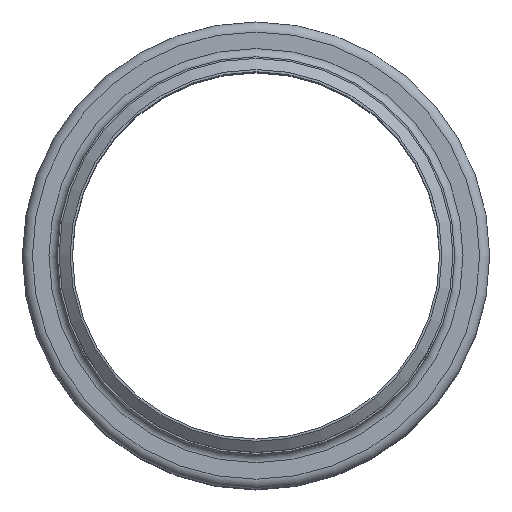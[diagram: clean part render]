
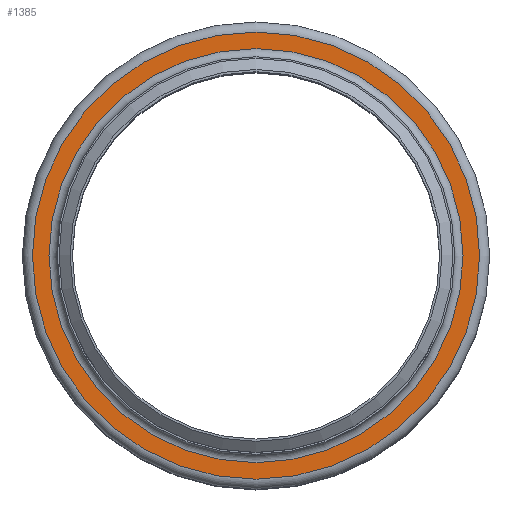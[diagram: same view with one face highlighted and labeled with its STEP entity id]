
A CAD part, top view. The second image highlights one B-rep face of the part: STEP entity #1385.
In plain terms, the highlighted planar face has unit normal (0, 0, 1).
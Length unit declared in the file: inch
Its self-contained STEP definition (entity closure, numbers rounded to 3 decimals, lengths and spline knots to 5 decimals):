
#155=FACE_BOUND('',#416,.T.);
#256=FACE_OUTER_BOUND('',#415,.T.);
#415=EDGE_LOOP('',(#1168));
#416=EDGE_LOOP('',(#1169));
#584=CIRCLE('',#1684,5.649);
#585=CIRCLE('',#1686,6.101);
#703=VERTEX_POINT('',#2631);
#704=VERTEX_POINT('',#2635);
#862=EDGE_CURVE('',#703,#703,#584,.T.);
#863=EDGE_CURVE('',#704,#704,#585,.T.);
#1168=ORIENTED_EDGE('',*,*,#863,.F.);
#1169=ORIENTED_EDGE('',*,*,#862,.T.);
#1284=PLANE('',#1685);
#1385=ADVANCED_FACE('',(#256,#155),#1284,.T.);
#1684=AXIS2_PLACEMENT_3D('',#2633,#2197,#2198);
#1685=AXIS2_PLACEMENT_3D('',#2634,#2199,#2200);
#1686=AXIS2_PLACEMENT_3D('',#2636,#2201,#2202);
#2197=DIRECTION('center_axis',(0.,0.,-1.));
#2198=DIRECTION('ref_axis',(1.,0.,0.));
#2199=DIRECTION('center_axis',(0.,0.,1.));
#2200=DIRECTION('ref_axis',(1.,0.,0.));
#2201=DIRECTION('center_axis',(0.,0.,-1.));
#2202=DIRECTION('ref_axis',(1.,0.,0.));
#2631=CARTESIAN_POINT('',(5.649,0.,-0.226));
#2633=CARTESIAN_POINT('Origin',(0.,0.,-0.226));
#2634=CARTESIAN_POINT('Origin',(0.,6.101,-0.226));
#2635=CARTESIAN_POINT('',(6.101,0.,-0.226));
#2636=CARTESIAN_POINT('Origin',(0.,0.,-0.226));
